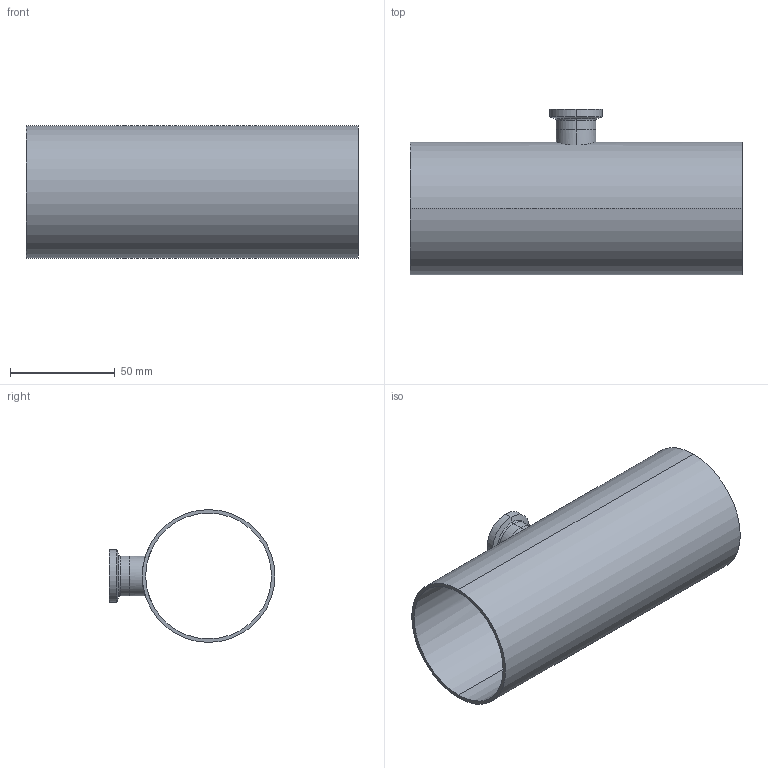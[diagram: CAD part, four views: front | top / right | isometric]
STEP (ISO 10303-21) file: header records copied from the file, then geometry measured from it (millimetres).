
FILE_DESCRIPTION (( 'STEP AP214' ), '1' );
FILE_NAME ('TE7RWWCS6L2.5x.75-...STEP', '2016-05-23T12:06:35', ( 'eran' ), ( '' ), 'SwSTEP 2.0', 'SolidWorks 2016', '' );
FILE_SCHEMA (( 'AUTOMOTIVE_DESIGN' ));
Length unit declared in the file: millimetre
Products named in the file (1): TE7RWWCS6L2.5x.75-..
Bounding box: 158.8 x 79.35 x 63.5 mm (x, y, z)
Volume: 52655.3 mm3; surface area: 64538.2 mm2
Topology: 2 solids, 2 shells, 34 faces, 70 edges, 42 vertices
Faces by surface type: cylinder 16, bspline 8, plane 6, cone 4
Entity records: 1219 total; most frequent: CARTESIAN_POINT 459, DIRECTION 158, ORIENTED_EDGE 140, EDGE_CURVE 70, AXIS2_PLACEMENT_3D 69, EDGE_LOOP 42, VERTEX_POINT 42, CIRCLE 42
